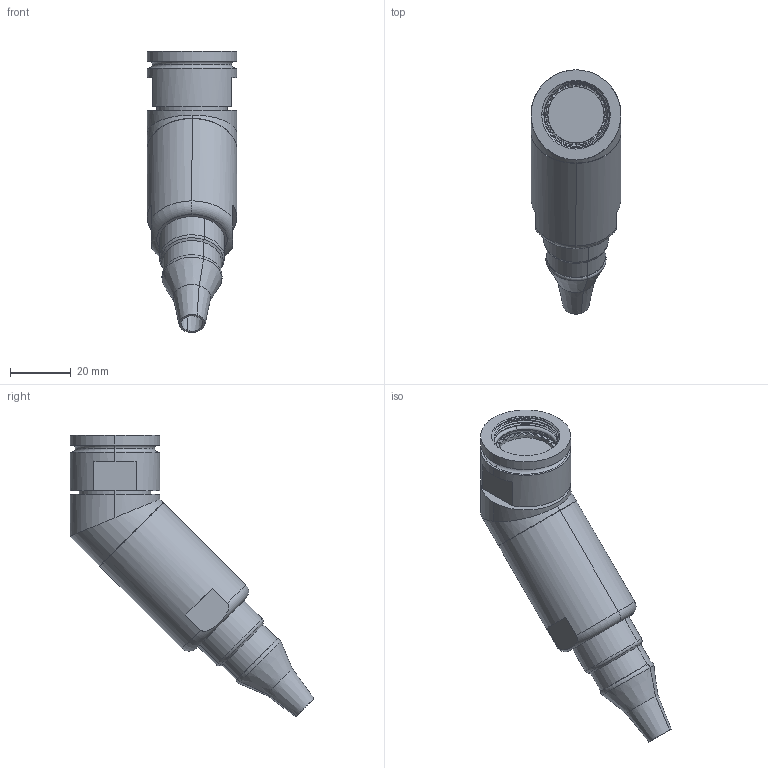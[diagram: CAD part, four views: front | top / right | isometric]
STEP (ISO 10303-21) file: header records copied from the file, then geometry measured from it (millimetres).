
FILE_DESCRIPTION (( 'STEP AP214' ), '1' );
FILE_NAME ('Q38SHELL-45X-15-XXXX-HX.STEP', '2025-09-25T19:50:08', ( '' ), ( '' ), 'SwSTEP 2.0', 'SolidWorks 2024', '' );
FILE_SCHEMA (( 'AUTOMOTIVE_DESIGN' ));
Length unit declared in the file: millimetre
Products named in the file (1): Q38SHELL-45X-15-XXXX-HX
Bounding box: 29.54 x 80.12 x 92.37 mm (x, y, z)
Volume: 54911.9 mm3; surface area: 13380.6 mm2
Topology: 2 solids, 2 shells, 195 faces, 506 edges, 328 vertices
Faces by surface type: plane 121, cylinder 39, cone 18, torus 14, bspline 3
Entity records: 6914 total; most frequent: CARTESIAN_POINT 2269, ORIENTED_EDGE 1012, DIRECTION 984, EDGE_CURVE 506, AXIS2_PLACEMENT_3D 409, VERTEX_POINT 328, CIRCLE 216, EDGE_LOOP 210
